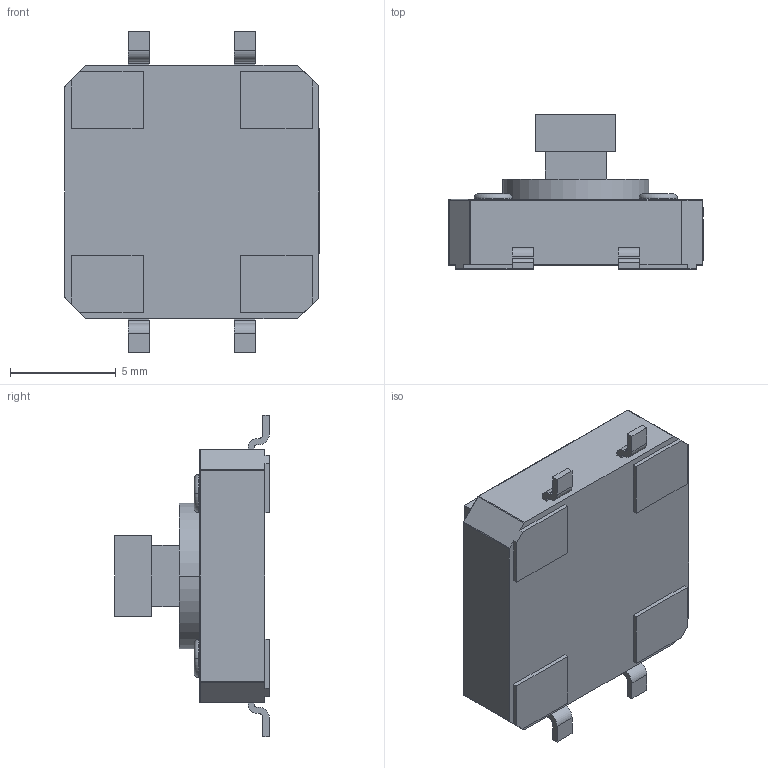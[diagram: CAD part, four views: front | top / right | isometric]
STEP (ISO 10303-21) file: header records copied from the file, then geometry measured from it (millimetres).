
FILE_DESCRIPTION((''),'2;1');
FILE_NAME('PRT0050','2024-01-04T',('WYH'),(''),'PRO/ENGINEER BY PARAMETRIC TECHNOLOGY CORPORATION, 2013040','PRO/ENGINEER BY PARAMETRIC TECHNOLOGY CORPORATION, 2013040','');
FILE_SCHEMA(('CONFIG_CONTROL_DESIGN'));
Length unit declared in the file: millimetre
Products named in the file (1): PRT0050
Bounding box: 12.02 x 7.3 x 15.2 mm (x, y, z)
Volume: 495.5 mm3; surface area: 745.3 mm2
Topology: 1 solids, 1 shells, 228 faces, 605 edges, 386 vertices
Faces by surface type: plane 142, cylinder 66, sphere 12, torus 8
Entity records: 6995 total; most frequent: DIRECTION 1213, CARTESIAN_POINT 1207, ORIENTED_EDGE 1186, EDGE_CURVE 593, VECTOR 429, LINE 429, AXIS2_PLACEMENT_3D 392, VERTEX_POINT 386
